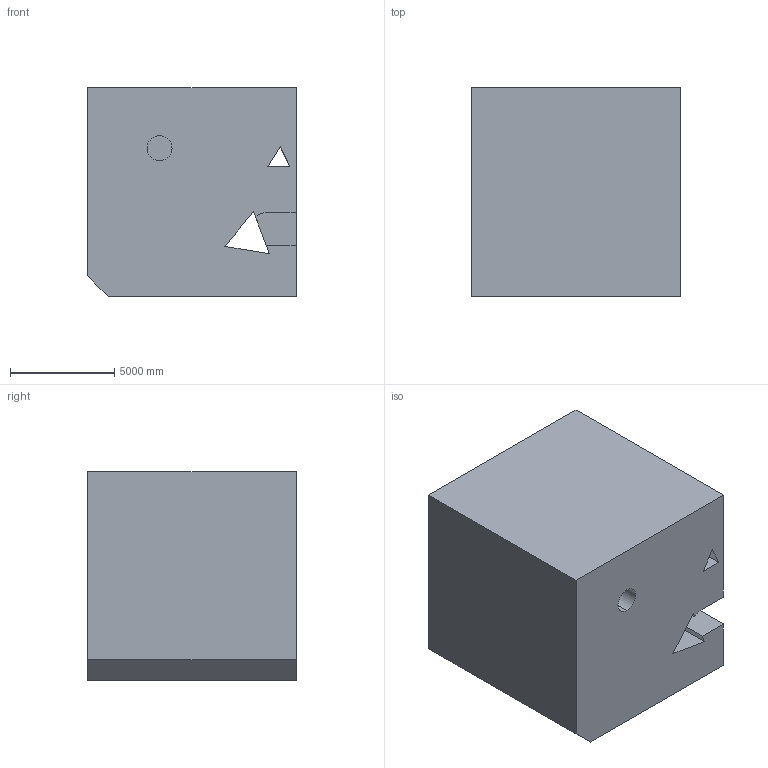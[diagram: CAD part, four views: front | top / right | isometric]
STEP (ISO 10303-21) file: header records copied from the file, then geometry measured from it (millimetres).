
FILE_DESCRIPTION (( 'STEP AP203' ), '1' );
FILE_NAME ('170.STEP', '2022-09-05T15:54:13', ( 'user' ), ( '' ), 'SwSTEP 2.0', 'SolidWorks 2021', '' );
FILE_SCHEMA (( 'CONFIG_CONTROL_DESIGN' ));
Length unit declared in the file: centimetre
Products named in the file (1): 170
Bounding box: 10000 x 10000 x 10000 mm (x, y, z)
Volume: 911455734509.1 mm3; surface area: 790056182.7 mm2
Topology: 1 solids, 1 shells, 34 faces, 96 edges, 64 vertices
Faces by surface type: plane 31, cylinder 3
Entity records: 1175 total; most frequent: CARTESIAN_POINT 195, ORIENTED_EDGE 192, DIRECTION 172, EDGE_CURVE 96, VECTOR 90, LINE 90, VERTEX_POINT 64, AXIS2_PLACEMENT_3D 41
